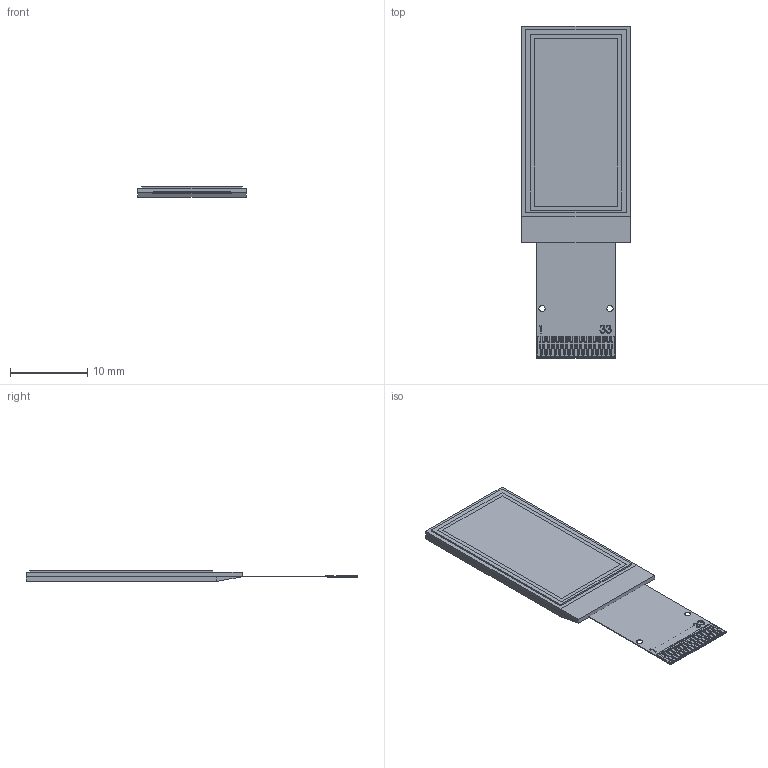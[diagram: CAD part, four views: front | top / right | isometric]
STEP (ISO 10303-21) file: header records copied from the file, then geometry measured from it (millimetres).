
FILE_DESCRIPTION (( 'STEP AP214' ), '1' );
FILE_NAME ('CFAL64128B0-0096B-WC.STEP', '2024-12-19T00:31:06', ( '' ), ( '' ), 'SwSTEP 2.0', 'SolidWorks 2021', '' );
FILE_SCHEMA (( 'AUTOMOTIVE_DESIGN' ));
Length unit declared in the file: millimetre
Products named in the file (1): CFAL64128B0-0096B-WC
Bounding box: 14 x 43 x 1.4 mm (x, y, z)
Volume: 537.3 mm3; surface area: 2766.6 mm2
Topology: 39 solids, 39 shells, 610 faces, 1592 edges, 1068 vertices
Faces by surface type: plane 578, bspline 28, cylinder 4
Entity records: 26025 total; most frequent: CARTESIAN_POINT 4835, ORIENTED_EDGE 3184, DIRECTION 2710, EDGE_CURVE 1592, VECTOR 1528, LINE 1528, VERTEX_POINT 1068, EDGE_LOOP 622
